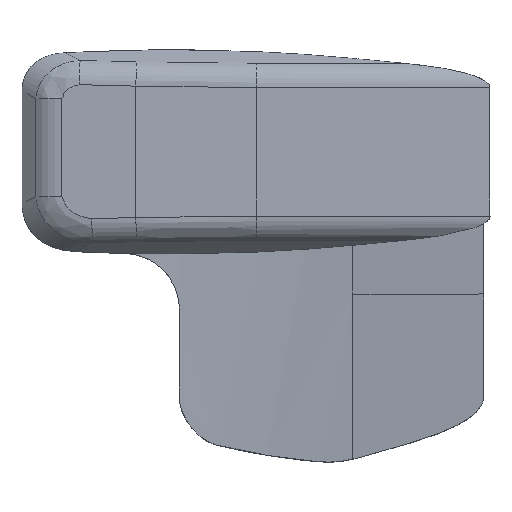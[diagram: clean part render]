
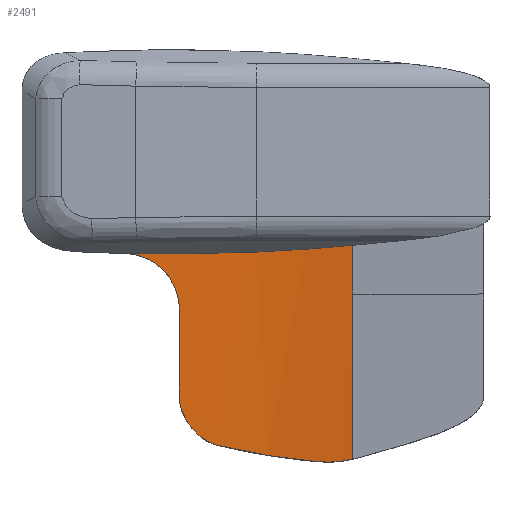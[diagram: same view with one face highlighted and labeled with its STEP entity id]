
A CAD part, top view. The second image highlights one B-rep face of the part: STEP entity #2491.
In plain terms, the highlighted cylindrical face has radius 400 mm (diameter 800 mm), a partial arc.
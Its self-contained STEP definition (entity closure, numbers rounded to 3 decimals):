
#1388=VECTOR('Line Direction',#1387,1.) ;
#2467=VECTOR('Line Direction',#2466,1.) ;
#2474=VECTOR('Line Direction',#2473,1.) ;
#1387=DIRECTION('Vector Direction',(0.,-1.,0.)) ;
#2461=DIRECTION('Axis2P3D Direction',(0.,-1.,0.)) ;
#2462=DIRECTION('Axis2P3D XDirection',(-0.139,0.,-0.99)) ;
#2466=DIRECTION('Vector Direction',(0.,-1.,0.)) ;
#2473=DIRECTION('Vector Direction',(0.,-1.,0.)) ;
#729=CARTESIAN_POINT('Vertex',(818.301,-700.195,580.389)) ;
#736=CARTESIAN_POINT('Vertex',(837.827,-720.189,580.064)) ;
#740=CARTESIAN_POINT('Control Point',(837.827,-720.189,580.064)) ;
#741=CARTESIAN_POINT('Control Point',(837.827,-718.357,580.064)) ;
#742=CARTESIAN_POINT('Control Point',(837.573,-716.525,580.062)) ;
#743=CARTESIAN_POINT('Control Point',(837.076,-714.761,580.059)) ;
#744=CARTESIAN_POINT('Vertex',(837.076,-714.761,580.059)) ;
#748=CARTESIAN_POINT('Control Point',(837.076,-714.761,580.059)) ;
#749=CARTESIAN_POINT('Control Point',(835.694,-709.862,580.05)) ;
#750=CARTESIAN_POINT('Control Point',(832.756,-705.401,580.039)) ;
#751=CARTESIAN_POINT('Control Point',(828.436,-702.05,580.053)) ;
#752=CARTESIAN_POINT('Control Point',(823.385,-700.315,580.18)) ;
#753=CARTESIAN_POINT('Control Point',(818.301,-700.195,580.389)) ;
#1167=CARTESIAN_POINT('Vertex',(900.11,-774.031,585.432)) ;
#1205=CARTESIAN_POINT('Vertex',(887.565,-774.922,583.557)) ;
#1209=CARTESIAN_POINT('Control Point',(900.11,-774.031,585.432)) ;
#1210=CARTESIAN_POINT('Control Point',(897.036,-774.725,584.923)) ;
#1211=CARTESIAN_POINT('Control Point',(893.893,-775.126,584.435)) ;
#1212=CARTESIAN_POINT('Control Point',(890.717,-775.19,583.978)) ;
#1213=CARTESIAN_POINT('Control Point',(887.565,-774.922,583.557)) ;
#1243=CARTESIAN_POINT('Vertex',(851.268,-768.933,580.394)) ;
#1247=CARTESIAN_POINT('Control Point',(887.565,-774.922,583.557)) ;
#1248=CARTESIAN_POINT('Control Point',(880.261,-774.3,582.584)) ;
#1249=CARTESIAN_POINT('Control Point',(872.959,-773.382,581.782)) ;
#1250=CARTESIAN_POINT('Control Point',(865.681,-772.174,581.152)) ;
#1251=CARTESIAN_POINT('Control Point',(858.446,-770.686,580.691)) ;
#1252=CARTESIAN_POINT('Control Point',(851.268,-768.933,580.394)) ;
#1279=CARTESIAN_POINT('Control Point',(842.799,-763.447,580.133)) ;
#1280=CARTESIAN_POINT('Control Point',(844.174,-764.966,580.161)) ;
#1281=CARTESIAN_POINT('Control Point',(845.7,-766.348,580.198)) ;
#1282=CARTESIAN_POINT('Control Point',(847.389,-767.551,580.246)) ;
#1283=CARTESIAN_POINT('Control Point',(849.279,-768.447,580.312)) ;
#1284=CARTESIAN_POINT('Control Point',(851.268,-768.933,580.394)) ;
#1285=CARTESIAN_POINT('Vertex',(842.799,-763.447,580.133)) ;
#1316=CARTESIAN_POINT('Control Point',(841.422,-761.703,580.108)) ;
#1317=CARTESIAN_POINT('Control Point',(841.851,-762.329,580.115)) ;
#1318=CARTESIAN_POINT('Control Point',(842.312,-762.91,580.123)) ;
#1319=CARTESIAN_POINT('Control Point',(842.799,-763.447,580.133)) ;
#1320=CARTESIAN_POINT('Vertex',(841.422,-761.703,580.108)) ;
#1353=CARTESIAN_POINT('Control Point',(837.827,-751.723,580.064)) ;
#1354=CARTESIAN_POINT('Control Point',(837.827,-753.935,580.064)) ;
#1355=CARTESIAN_POINT('Control Point',(838.301,-756.155,580.067)) ;
#1356=CARTESIAN_POINT('Control Point',(839.197,-758.147,580.075)) ;
#1357=CARTESIAN_POINT('Control Point',(840.245,-759.988,580.088)) ;
#1358=CARTESIAN_POINT('Control Point',(841.422,-761.703,580.108)) ;
#1359=CARTESIAN_POINT('Vertex',(837.827,-751.723,580.064)) ;
#1386=CARTESIAN_POINT('Line Origine',(837.827,-735.956,580.064)) ;
#2408=CARTESIAN_POINT('Control Point',(837.827,-700.382,580.064)) ;
#2409=CARTESIAN_POINT('Control Point',(833.92,-700.4,580.033)) ;
#2410=CARTESIAN_POINT('Control Point',(830.014,-700.39,580.051)) ;
#2411=CARTESIAN_POINT('Control Point',(826.107,-700.352,580.116)) ;
#2412=CARTESIAN_POINT('Control Point',(822.202,-700.287,580.229)) ;
#2413=CARTESIAN_POINT('Control Point',(818.301,-700.195,580.389)) ;
#2414=CARTESIAN_POINT('Vertex',(837.827,-700.382,580.064)) ;
#2418=CARTESIAN_POINT('Control Point',(837.827,-700.382,580.064)) ;
#2419=CARTESIAN_POINT('Control Point',(848.786,-700.333,580.149)) ;
#2420=CARTESIAN_POINT('Control Point',(859.741,-700.067,580.609)) ;
#2421=CARTESIAN_POINT('Control Point',(870.669,-699.584,581.445)) ;
#2422=CARTESIAN_POINT('Control Point',(883.112,-698.787,582.826)) ;
#2423=CARTESIAN_POINT('Control Point',(895.462,-697.713,584.686)) ;
#2424=CARTESIAN_POINT('Control Point',(897.013,-697.573,584.927)) ;
#2425=CARTESIAN_POINT('Control Point',(898.562,-697.429,585.176)) ;
#2426=CARTESIAN_POINT('Control Point',(900.109,-697.281,585.432)) ;
#2427=CARTESIAN_POINT('Vertex',(900.109,-697.281,585.432)) ;
#2460=CARTESIAN_POINT('Axis2P3D Location',(834.721,-664.762,980.052)) ;
#2465=CARTESIAN_POINT('Line Origine',(900.109,-664.761,585.432)) ;
#2469=CARTESIAN_POINT('Vertex',(900.11,-714.761,585.432)) ;
#2472=CARTESIAN_POINT('Line Origine',(900.109,-664.761,585.432)) ;
#2463=AXIS2_PLACEMENT_3D('Cylinder Axis2P3D',#2460,#2461,#2462) ;
#746=EDGE_CURVE('',#745,#737,#739,.F.) ;
#754=EDGE_CURVE('',#730,#745,#747,.F.) ;
#1214=EDGE_CURVE('',#1168,#1206,#1208,.T.) ;
#1253=EDGE_CURVE('',#1206,#1244,#1246,.T.) ;
#1287=EDGE_CURVE('',#1286,#1244,#1278,.T.) ;
#1322=EDGE_CURVE('',#1286,#1321,#1315,.F.) ;
#1361=EDGE_CURVE('',#1321,#1360,#1352,.F.) ;
#1390=EDGE_CURVE('',#737,#1360,#1389,.T.) ;
#2416=EDGE_CURVE('',#730,#2415,#2407,.F.) ;
#2429=EDGE_CURVE('',#2415,#2428,#2417,.T.) ;
#2471=EDGE_CURVE('',#1168,#2470,#2468,.F.) ;
#2476=EDGE_CURVE('',#2470,#2428,#2475,.F.) ;
#2478=ORIENTED_EDGE('',*,*,#746,.T.) ;
#2479=ORIENTED_EDGE('',*,*,#1390,.T.) ;
#2480=ORIENTED_EDGE('',*,*,#1361,.F.) ;
#2481=ORIENTED_EDGE('',*,*,#1322,.F.) ;
#2482=ORIENTED_EDGE('',*,*,#1287,.T.) ;
#2483=ORIENTED_EDGE('',*,*,#1253,.F.) ;
#2484=ORIENTED_EDGE('',*,*,#1214,.F.) ;
#2485=ORIENTED_EDGE('',*,*,#2471,.T.) ;
#2486=ORIENTED_EDGE('',*,*,#2476,.T.) ;
#2487=ORIENTED_EDGE('',*,*,#2429,.F.) ;
#2488=ORIENTED_EDGE('',*,*,#2416,.F.) ;
#2489=ORIENTED_EDGE('',*,*,#754,.T.) ;
#1389=LINE('Line',#1386,#1388) ;
#2468=LINE('Line',#2465,#2467) ;
#2475=LINE('Line',#2472,#2474) ;
#2491=ADVANCED_FACE('SHT0018182-2.0\X2\5EA776C6\X0\ CNC\X2\9A8C8BC153D16CE1821290026027\X0\-2.0',(#2490),#2464,.F.) ;
#2464=CYLINDRICAL_SURFACE('generated cylinder',#2463,400.) ;
#730=VERTEX_POINT('',#729) ;
#737=VERTEX_POINT('',#736) ;
#745=VERTEX_POINT('',#744) ;
#1168=VERTEX_POINT('',#1167) ;
#1206=VERTEX_POINT('',#1205) ;
#1244=VERTEX_POINT('',#1243) ;
#1286=VERTEX_POINT('',#1285) ;
#1321=VERTEX_POINT('',#1320) ;
#1360=VERTEX_POINT('',#1359) ;
#2415=VERTEX_POINT('',#2414) ;
#2428=VERTEX_POINT('',#2427) ;
#2470=VERTEX_POINT('',#2469) ;
#739=B_SPLINE_CURVE_WITH_KNOTS('',3,(#740,#741,#742,#743),.UNSPECIFIED.,.F.,.U.,(4,4),(0.,7.786),.UNSPECIFIED.) ;
#747=B_SPLINE_CURVE_WITH_KNOTS('',5,(#748,#749,#750,#751,#752,#753),.UNSPECIFIED.,.F.,.U.,(6,6),(0.,36.619),.UNSPECIFIED.) ;
#1208=B_SPLINE_CURVE_WITH_KNOTS('',4,(#1209,#1210,#1211,#1212,#1213),.UNSPECIFIED.,.F.,.U.,(5,5),(0.,12.799),.UNSPECIFIED.) ;
#1246=B_SPLINE_CURVE_WITH_KNOTS('',5,(#1247,#1248,#1249,#1250,#1251,#1252),.UNSPECIFIED.,.F.,.U.,(6,6),(0.,36.998),.UNSPECIFIED.) ;
#1278=B_SPLINE_CURVE_WITH_KNOTS('',5,(#1279,#1280,#1281,#1282,#1283,#1284),.UNSPECIFIED.,.F.,.U.,(6,6),(0.,10.324),.UNSPECIFIED.) ;
#1315=B_SPLINE_CURVE_WITH_KNOTS('',3,(#1316,#1317,#1318,#1319),.UNSPECIFIED.,.F.,.U.,(4,4),(0.,2.226),.UNSPECIFIED.) ;
#1352=B_SPLINE_CURVE_WITH_KNOTS('',5,(#1353,#1354,#1355,#1356,#1357,#1358),.UNSPECIFIED.,.F.,.U.,(6,6),(0.,10.865),.UNSPECIFIED.) ;
#2407=B_SPLINE_CURVE_WITH_KNOTS('',5,(#2408,#2409,#2410,#2411,#2412,#2413),.UNSPECIFIED.,.F.,.U.,(6,6),(0.,27.622),.UNSPECIFIED.) ;
#2417=B_SPLINE_CURVE_WITH_KNOTS('',5,(#2418,#2419,#2420,#2421,#2422,#2423,#2424,#2425,#2426),.UNSPECIFIED.,.F.,.U.,(6,3,6),(0.,77.513,88.657),.UNSPECIFIED.) ;
#2477=EDGE_LOOP('',(#2478,#2479,#2480,#2481,#2482,#2483,#2484,#2485,#2486,#2487,#2488,#2489)) ;
#2490=FACE_OUTER_BOUND('',#2477,.T.) ;
